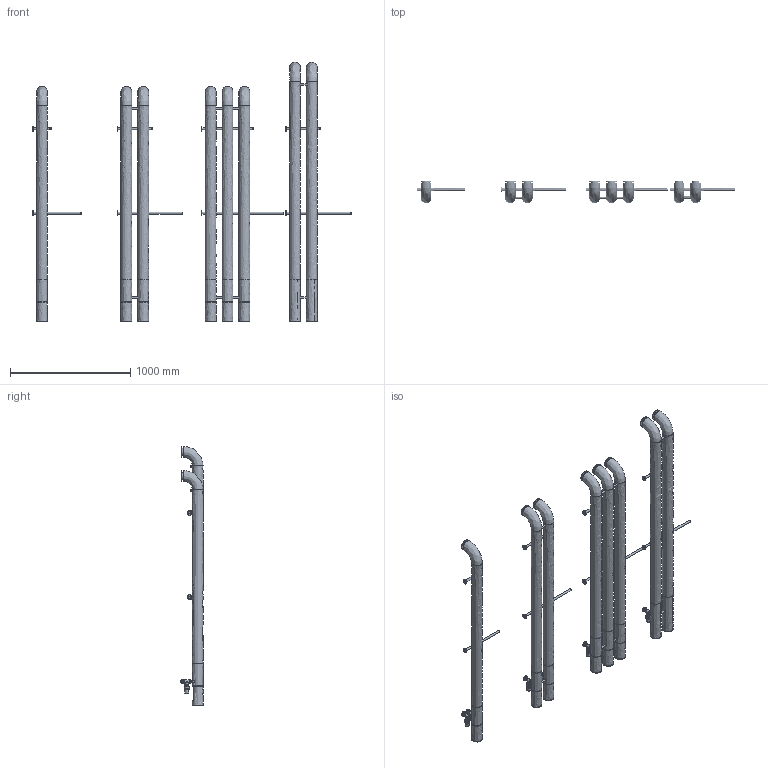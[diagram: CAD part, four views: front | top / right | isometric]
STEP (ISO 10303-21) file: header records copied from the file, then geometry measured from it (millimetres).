
FILE_DESCRIPTION ((), '1');
FILE_NAME ('/Users/melo21casa/Desktop/3D x Diliberto/CHEM-S/CheM-M 4 mod.stp', '2025-09-01T15:54:06', ('Unknown'), ('Unknown'), 'HarmonyWare STEP v2.1.7', 'Vectorworks', '');
FILE_SCHEMA (('CONFIG_CONTROL_DESIGN'));
Bounding box: 2640 x 184.15 x 2150.98 mm (x, y, z)
Volume: 89083813.1 mm3; surface area: 6282795.7 mm2
Topology: 103 solids, 2643 shells, 3630 faces, 12373 edges, 11310 vertices
Faces by surface type: bspline 3630
Entity records: 190818 total; most frequent: CARTESIAN_POINT 124009, ORIENTED_EDGE 14686, EDGE_CURVE 12169, VERTEX_POINT 11310, B_SPLINE_CURVE_WITH_KNOTS 9925, EDGE_LOOP 3853, FACE_OUTER_BOUND 3630, ADVANCED_FACE 3630
